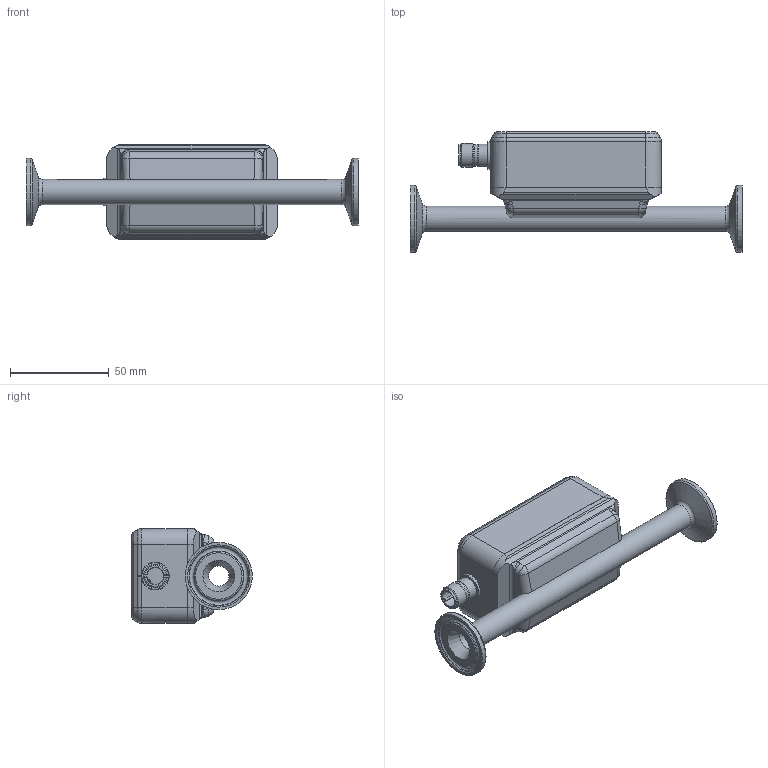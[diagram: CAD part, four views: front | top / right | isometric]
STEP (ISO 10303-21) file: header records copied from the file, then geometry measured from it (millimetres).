
FILE_DESCRIPTION(/* description */ ('STEP AP203'),/* implementation_level */ '2;1');
FILE_NAME(/* name */ 'P_MZ_300_0411',/* time_stamp */ '2025-05-05T09:16:01+02:00',/* author */ ('License CC BY-ND 4.0'),/* organization */ ('CADENAS'),/* preprocessor_version */ 'ST-DEVELOPER v19.3',/* originating_system */ 'PARTsolutions',/* authorisation */ ' ');
FILE_SCHEMA (('CONFIG_CONTROL_DESIGN'));
Length unit declared in the file: millimetre
Products named in the file (1): P_MZ_300_0411
Bounding box: 168 x 61.13 x 48.15 mm (x, y, z)
Volume: 173032.1 mm3; surface area: 31220.5 mm2
Topology: 1 solids, 1 shells, 136 faces, 311 edges, 179 vertices
Faces by surface type: cylinder 46, plane 40, torus 21, cone 16, bspline 9, sphere 4
Full cylindrical faces by diameter (mm): 8.45 x1, 10.2 x1, 10.55 x1, 10.8 x1, 11.3 x1, 12 x1, 12.7 x1, 14 x1, 34 x2
Entity records: 4701 total; most frequent: CARTESIAN_POINT 834, DIRECTION 640, ORIENTED_EDGE 540, AXIS2_PLACEMENT_3D 271, EDGE_CURVE 270, EDGE_LOOP 179, FACE_BOUND 179, VERTEX_POINT 177
